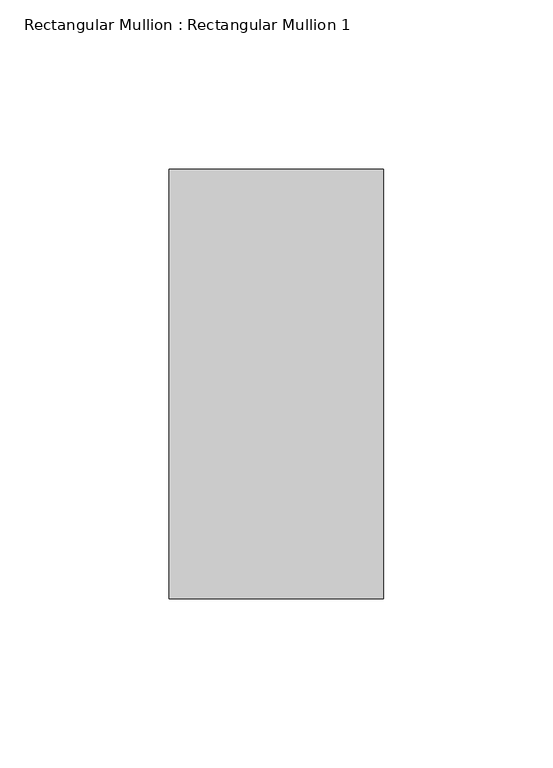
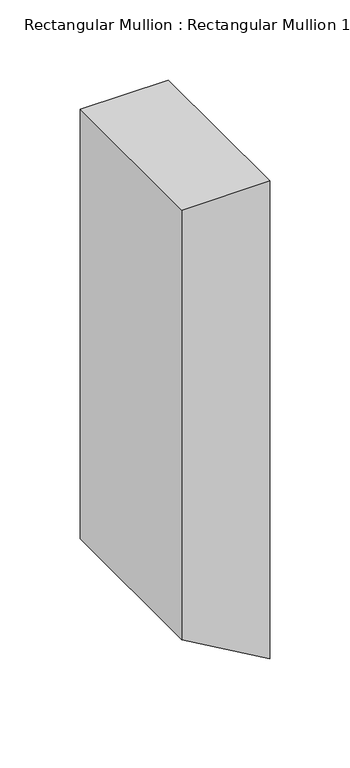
"""IFC4 building model written with IfcOpenShell, lengths in millimetres: member geometry, Rectangular Mullion : Rectangular Mullion 1."""

from ifc_helpers import new_model, si_unit, frame, origin, place, context, project, spatial, polyline, outline, extrude, source, transform, mapped, element, save


def rectangular_mullion_rectangular_mullion_1_fadfa83c(model_context):
    return source(origin(), model_context, "Body", "SweptSolid", [
        extrude(outline(polyline([(0.0, 31.75), (0.0, -31.75), (-327.9255163, -31.75), (-364.5872584, 31.75), (0.0, 31.75)])), frame((0.0, -63.5, 0.0), z_axis=(0.0, 1.0, 0.0), x_axis=(0.0, 0.0, 1.0)), (0.0, 0.0, 1.0), 127.0),
    ])


if __name__ == "__main__":
    model = new_model("IFC4")
    model_context = context("Model", 3, world=origin())
    ifc_project = project(units=[si_unit("LENGTHUNIT", "METRE", prefix="MILLI")], contexts=[model_context])
    site = spatial("IfcSite", under=ifc_project)
    building = spatial("IfcBuilding", under=site)
    placement = place(None, origin())
    rectangular_mullion_rectangular_mullion_1_shape = rectangular_mullion_rectangular_mullion_1_fadfa83c(model_context)
    element("IfcMember", 1, ObjectType="Rectangular Mullion : Rectangular Mullion 1", at=placement, inside=building, context=model_context, shape_type="MappedRepresentation", body=[
        mapped(rectangular_mullion_rectangular_mullion_1_shape, transform((0.0, 0.0, 0.0), x_axis=(1.0, 0.0, 0.0), y_axis=(0.0, 1.0, 0.0), z_axis=(0.0, 0.0, 1.0))),
    ])
    save(model, "model.ifc")
